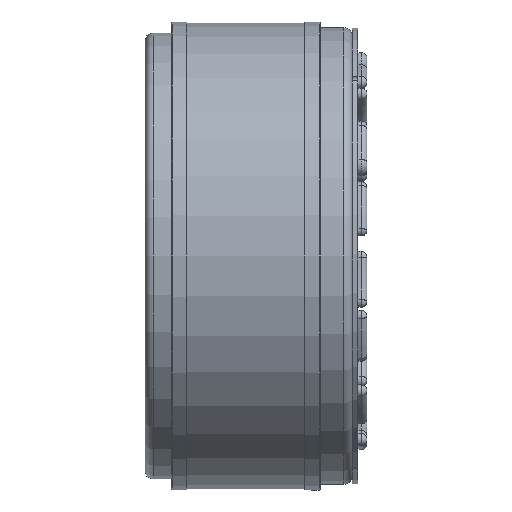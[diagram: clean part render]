
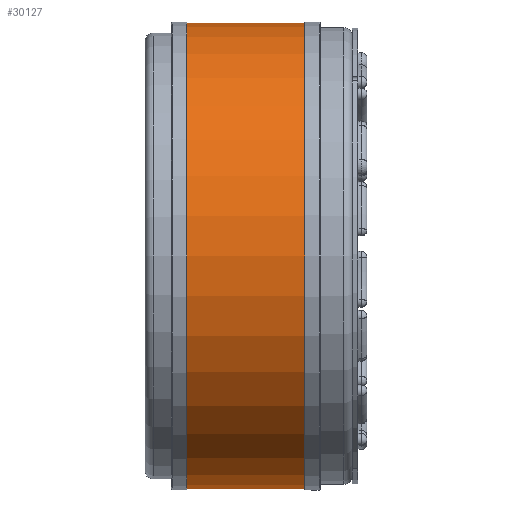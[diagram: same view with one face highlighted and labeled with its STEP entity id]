
A CAD part, front view. The second image highlights one B-rep face of the part: STEP entity #30127.
In plain terms, the highlighted cylindrical face has radius 42.3 mm (diameter 84.6 mm), a partial arc.
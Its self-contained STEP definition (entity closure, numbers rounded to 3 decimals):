
#397 = CARTESIAN_POINT ( 'NONE',  ( 7.6, 0., 42.3 ) ) ;
#667 = CARTESIAN_POINT ( 'NONE',  ( 0., 0., -42.3 ) ) ;
#686 = CARTESIAN_POINT ( 'NONE',  ( 0., 0., 42.3 ) ) ;
#1693 = VERTEX_POINT ( 'NONE', #397 ) ;
#2020 = DIRECTION ( 'NONE',  ( -1., 0., 0. ) ) ;
#2030 = CIRCLE ( 'NONE', #5873, 42.3 ) ;
#3061 = AXIS2_PLACEMENT_3D ( 'NONE', #29084, #6746, #32845 ) ;
#5108 = CYLINDRICAL_SURFACE ( 'NONE', #7583, 42.3 ) ;
#5873 = AXIS2_PLACEMENT_3D ( 'NONE', #24413, #2020, #28129 ) ;
#6117 = ORIENTED_EDGE ( 'NONE', *, *, #39771, .T. ) ;
#6746 = DIRECTION ( 'NONE',  ( -1., 0., 0. ) ) ;
#7501 = ORIENTED_EDGE ( 'NONE', *, *, #20272, .F. ) ;
#7583 = AXIS2_PLACEMENT_3D ( 'NONE', #13238, #28255, #39360 ) ;
#7812 = VECTOR ( 'NONE', #26817, 1000. ) ;
#8222 = DIRECTION ( 'NONE',  ( -1., 0., 0. ) ) ;
#8767 = VERTEX_POINT ( 'NONE', #30969 ) ;
#13163 = VERTEX_POINT ( 'NONE', #30961 ) ;
#13238 = CARTESIAN_POINT ( 'NONE',  ( 0., 0., 0. ) ) ;
#14336 = VECTOR ( 'NONE', #8222, 1000. ) ;
#20272 = EDGE_CURVE ( 'NONE', #13163, #1693, #39085, .T. ) ;
#24048 = CARTESIAN_POINT ( 'NONE',  ( 29., 0., 42.3 ) ) ;
#24238 = EDGE_CURVE ( 'NONE', #8767, #45707, #2030, .T. ) ;
#24413 = CARTESIAN_POINT ( 'NONE',  ( 29., 0., 0. ) ) ;
#24977 = FACE_OUTER_BOUND ( 'NONE', #42210, .T. ) ;
#25436 = LINE ( 'NONE', #686, #14336 ) ;
#26817 = DIRECTION ( 'NONE',  ( -1., 0., 0. ) ) ;
#28129 = DIRECTION ( 'NONE',  ( 0., 0., 1. ) ) ;
#28255 = DIRECTION ( 'NONE',  ( -1., 0., 0. ) ) ;
#29084 = CARTESIAN_POINT ( 'NONE',  ( 7.6, 0., 0. ) ) ;
#30127 = ADVANCED_FACE ( 'NONE', ( #24977 ), #5108, .T. ) ;
#30961 = CARTESIAN_POINT ( 'NONE',  ( 7.6, 0., -42.3 ) ) ;
#30969 = CARTESIAN_POINT ( 'NONE',  ( 29., 0., -42.3 ) ) ;
#32301 = ORIENTED_EDGE ( 'NONE', *, *, #42782, .F. ) ;
#32845 = DIRECTION ( 'NONE',  ( 0., 0., 1. ) ) ;
#36423 = LINE ( 'NONE', #667, #7812 ) ;
#39085 = CIRCLE ( 'NONE', #3061, 42.3 ) ;
#39360 = DIRECTION ( 'NONE',  ( 0., 0., 1. ) ) ;
#39771 = EDGE_CURVE ( 'NONE', #45707, #1693, #25436, .T. ) ;
#42210 = EDGE_LOOP ( 'NONE', ( #32301, #46060, #6117, #7501 ) ) ;
#42782 = EDGE_CURVE ( 'NONE', #8767, #13163, #36423, .T. ) ;
#45707 = VERTEX_POINT ( 'NONE', #24048 ) ;
#46060 = ORIENTED_EDGE ( 'NONE', *, *, #24238, .T. ) ;
